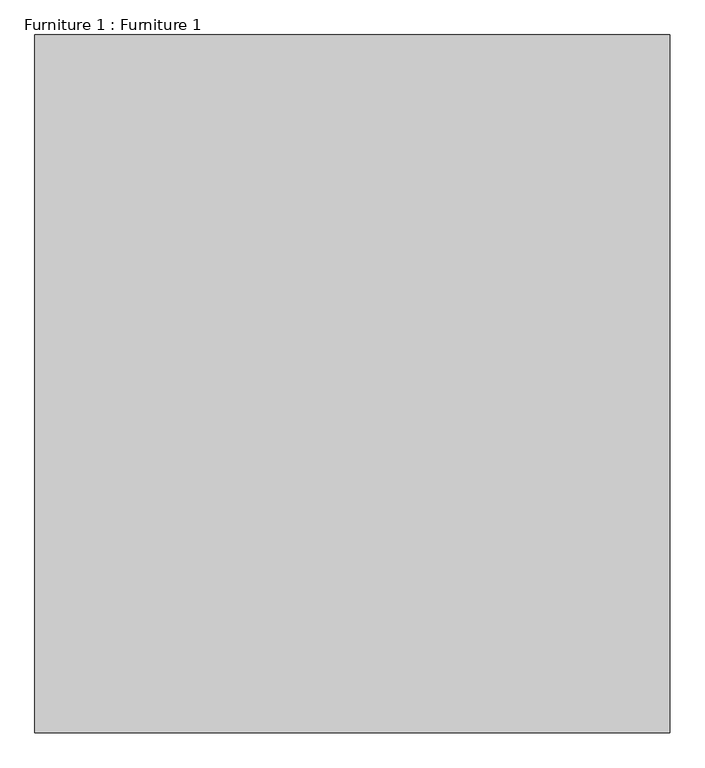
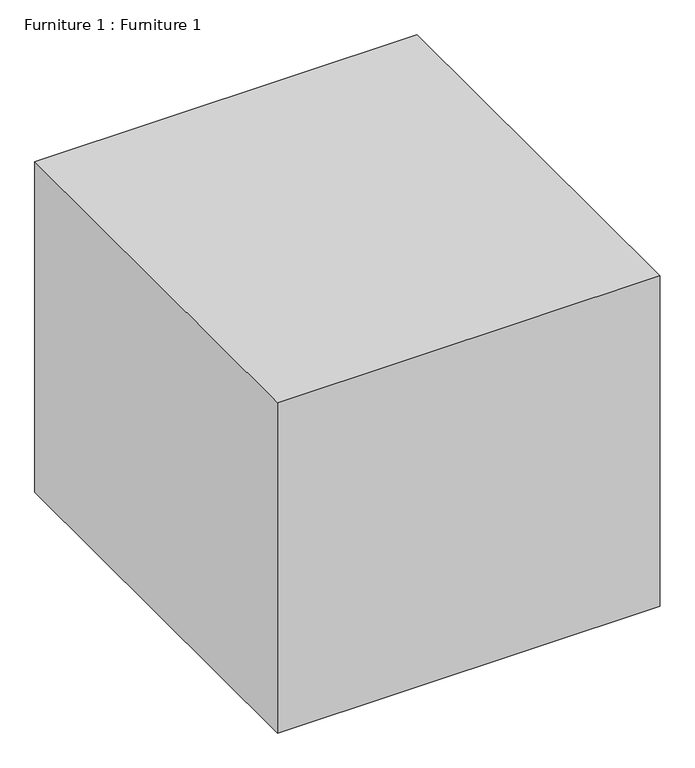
"""IFC4 building model written with IfcOpenShell, lengths in millimetres: furniture geometry, Furniture 1 : Furniture 1."""

from ifc_helpers import new_model, si_unit, origin, origin_with_axes, place, context, project, spatial, polyline, outline, extrude, source, transform, mapped, element, save


def furniture_1_furniture_1_dc6bc50a(model_context):
    return source(origin(), model_context, "Body", "SweptSolid", [
        extrude(outline(polyline([(7327.3677817, -1120.9181985), (8327.3677817, -1120.9181985), (8327.3677817, -2219.7736366), (7327.3677817, -2219.7736366), (7327.3677817, -1120.9181985)])), origin_with_axes(), (0.0, 0.0, 1.0), 913.2497015),
    ])


if __name__ == "__main__":
    model = new_model("IFC4")
    model_context = context("Model", 3, world=origin())
    ifc_project = project(units=[si_unit("LENGTHUNIT", "METRE", prefix="MILLI")], contexts=[model_context])
    site = spatial("IfcSite", under=ifc_project)
    building = spatial("IfcBuilding", under=site)
    placement = place(None, origin())
    furniture_1_furniture_1_shape = furniture_1_furniture_1_dc6bc50a(model_context)
    element("IfcFurniture", 1, ObjectType="Furniture 1 : Furniture 1", at=placement, inside=building, context=model_context, shape_type="MappedRepresentation", body=[
        mapped(furniture_1_furniture_1_shape, transform((0.0, 0.0, 0.0), x_axis=(1.0, 0.0, 0.0), y_axis=(0.0, 1.0, 0.0), z_axis=(0.0, 0.0, 1.0))),
    ])
    save(model, "model.ifc")
